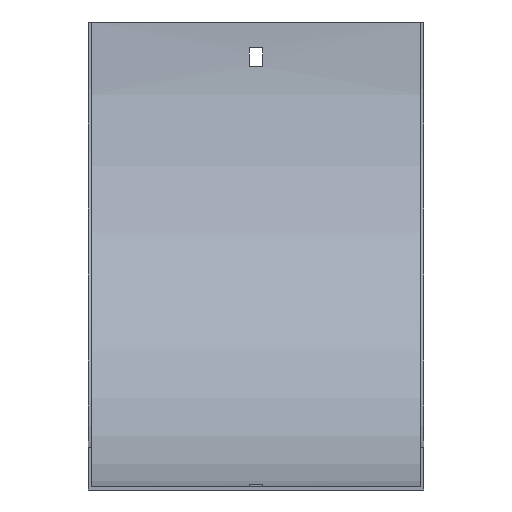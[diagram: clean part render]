
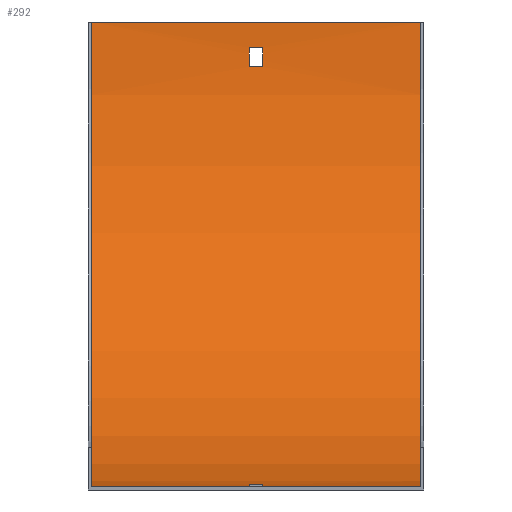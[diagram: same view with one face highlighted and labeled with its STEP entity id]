
A CAD part, front view. The second image highlights one B-rep face of the part: STEP entity #292.
In plain terms, the highlighted cylindrical face has radius 217.5 mm (diameter 435 mm), a partial arc.
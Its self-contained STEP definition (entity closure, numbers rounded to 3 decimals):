
#3 = DIRECTION ( 'NONE',  ( 1., 0., 0. ) ) ;
#5 = CARTESIAN_POINT ( 'NONE',  ( 3.25, -207., -217.169 ) ) ;
#25 = EDGE_LOOP ( 'NONE', ( #103, #221, #29, #463 ) ) ;
#29 = ORIENTED_EDGE ( 'NONE', *, *, #158, .T. ) ;
#31 = AXIS2_PLACEMENT_3D ( 'NONE', #259, #350, #256 ) ;
#35 = EDGE_CURVE ( 'NONE', #489, #163, #118, .T. ) ;
#41 = AXIS2_PLACEMENT_3D ( 'NONE', #492, #151, #395 ) ;
#48 = CARTESIAN_POINT ( 'NONE',  ( 77., -1.5, 0. ) ) ;
#59 = LINE ( 'NONE', #209, #462 ) ;
#75 = DIRECTION ( 'NONE',  ( 0., 0., 1. ) ) ;
#79 = CARTESIAN_POINT ( 'NONE',  ( -3.25, -207., -217.169 ) ) ;
#82 = CYLINDRICAL_SURFACE ( 'NONE', #579, 217.5 ) ;
#91 = DIRECTION ( 'NONE',  ( -1., 0., 0. ) ) ;
#98 = CARTESIAN_POINT ( 'NONE',  ( -77., -1.5, 0. ) ) ;
#99 = EDGE_CURVE ( 'NONE', #231, #489, #111, .T. ) ;
#103 = ORIENTED_EDGE ( 'NONE', *, *, #551, .T. ) ;
#111 = LINE ( 'NONE', #170, #242 ) ;
#118 = CIRCLE ( 'NONE', #410, 217.5 ) ;
#122 = CARTESIAN_POINT ( 'NONE',  ( 78.5, -207., -217.169 ) ) ;
#137 = ORIENTED_EDGE ( 'NONE', *, *, #383, .T. ) ;
#141 = EDGE_CURVE ( 'NONE', #150, #416, #290, .T. ) ;
#148 = ORIENTED_EDGE ( 'NONE', *, *, #430, .F. ) ;
#150 = VERTEX_POINT ( 'NONE', #79 ) ;
#151 = DIRECTION ( 'NONE',  ( 1., 0., 0. ) ) ;
#153 = CARTESIAN_POINT ( 'NONE',  ( 77., -219., -217.5 ) ) ;
#154 = CARTESIAN_POINT ( 'NONE',  ( 3.25, -219., 0. ) ) ;
#158 = EDGE_CURVE ( 'NONE', #416, #260, #506, .T. ) ;
#163 = VERTEX_POINT ( 'NONE', #509 ) ;
#166 = DIRECTION ( 'NONE',  ( 1., 0., 0. ) ) ;
#170 = CARTESIAN_POINT ( 'NONE',  ( 78.5, -2.516, -21. ) ) ;
#173 = EDGE_LOOP ( 'NONE', ( #539, #394, #595, #339 ) ) ;
#178 = CARTESIAN_POINT ( 'NONE',  ( 77., -219., -217.5 ) ) ;
#179 = DIRECTION ( 'NONE',  ( 0., 0., 1. ) ) ;
#180 = CARTESIAN_POINT ( 'NONE',  ( -3.25, -219., 0. ) ) ;
#193 = CARTESIAN_POINT ( 'NONE',  ( 77., -219., 0. ) ) ;
#209 = CARTESIAN_POINT ( 'NONE',  ( 78.5, -1.831, -12. ) ) ;
#211 = VECTOR ( 'NONE', #91, 1000. ) ;
#221 = ORIENTED_EDGE ( 'NONE', *, *, #141, .T. ) ;
#223 = DIRECTION ( 'NONE',  ( -1., 0., 0. ) ) ;
#225 = AXIS2_PLACEMENT_3D ( 'NONE', #180, #504, #420 ) ;
#226 = CARTESIAN_POINT ( 'NONE',  ( 78.5, -198., -216.484 ) ) ;
#227 = EDGE_CURVE ( 'NONE', #448, #388, #307, .T. ) ;
#229 = EDGE_CURVE ( 'NONE', #281, #231, #333, .T. ) ;
#230 = CARTESIAN_POINT ( 'NONE',  ( 77., -1.5, 0. ) ) ;
#231 = VERTEX_POINT ( 'NONE', #601 ) ;
#238 = ORIENTED_EDGE ( 'NONE', *, *, #600, .T. ) ;
#242 = VECTOR ( 'NONE', #494, 1000. ) ;
#256 = DIRECTION ( 'NONE',  ( 0., 0., -1. ) ) ;
#259 = CARTESIAN_POINT ( 'NONE',  ( -3.25, -219., 0. ) ) ;
#260 = VERTEX_POINT ( 'NONE', #417 ) ;
#268 = EDGE_CURVE ( 'NONE', #260, #305, #278, .T. ) ;
#278 = CIRCLE ( 'NONE', #323, 217.5 ) ;
#281 = VERTEX_POINT ( 'NONE', #319 ) ;
#290 = CIRCLE ( 'NONE', #31, 217.5 ) ;
#292 = ADVANCED_FACE ( 'NONE', ( #549, #508, #467 ), #82, .F. ) ;
#300 = VECTOR ( 'NONE', #314, 1000. ) ;
#305 = VERTEX_POINT ( 'NONE', #5 ) ;
#307 = LINE ( 'NONE', #178, #300 ) ;
#314 = DIRECTION ( 'NONE',  ( -1., 0., 0. ) ) ;
#317 = CARTESIAN_POINT ( 'NONE',  ( 3.25, -219., 0. ) ) ;
#319 = CARTESIAN_POINT ( 'NONE',  ( -3.25, -1.831, -12. ) ) ;
#323 = AXIS2_PLACEMENT_3D ( 'NONE', #317, #223, #75 ) ;
#331 = CIRCLE ( 'NONE', #41, 217.5 ) ;
#332 = CARTESIAN_POINT ( 'NONE',  ( -77., -219., -217.5 ) ) ;
#333 = CIRCLE ( 'NONE', #225, 217.5 ) ;
#339 = ORIENTED_EDGE ( 'NONE', *, *, #99, .F. ) ;
#343 = CIRCLE ( 'NONE', #476, 217.5 ) ;
#346 = CARTESIAN_POINT ( 'NONE',  ( -3.25, -198., -216.484 ) ) ;
#350 = DIRECTION ( 'NONE',  ( 1., 0., 0. ) ) ;
#361 = VERTEX_POINT ( 'NONE', #98 ) ;
#366 = DIRECTION ( 'NONE',  ( 1., 0., 0. ) ) ;
#383 = EDGE_CURVE ( 'NONE', #448, #589, #343, .T. ) ;
#386 = DIRECTION ( 'NONE',  ( 0., 0., 1. ) ) ;
#388 = VERTEX_POINT ( 'NONE', #332 ) ;
#394 = ORIENTED_EDGE ( 'NONE', *, *, #415, .F. ) ;
#395 = DIRECTION ( 'NONE',  ( 0., 0., 1. ) ) ;
#410 = AXIS2_PLACEMENT_3D ( 'NONE', #154, #166, #577 ) ;
#415 = EDGE_CURVE ( 'NONE', #163, #281, #59, .T. ) ;
#416 = VERTEX_POINT ( 'NONE', #346 ) ;
#417 = CARTESIAN_POINT ( 'NONE',  ( 3.25, -198., -216.484 ) ) ;
#420 = DIRECTION ( 'NONE',  ( 0., 0., 1. ) ) ;
#430 = EDGE_CURVE ( 'NONE', #388, #361, #331, .T. ) ;
#439 = ORIENTED_EDGE ( 'NONE', *, *, #227, .F. ) ;
#446 = CARTESIAN_POINT ( 'NONE',  ( 3.25, -2.516, -21. ) ) ;
#448 = VERTEX_POINT ( 'NONE', #153 ) ;
#452 = DIRECTION ( 'NONE',  ( -1., 0., 0. ) ) ;
#453 = EDGE_LOOP ( 'NONE', ( #148, #439, #137, #238 ) ) ;
#462 = VECTOR ( 'NONE', #452, 1000. ) ;
#463 = ORIENTED_EDGE ( 'NONE', *, *, #268, .T. ) ;
#466 = CARTESIAN_POINT ( 'NONE',  ( 78.5, -219., 0. ) ) ;
#467 = FACE_BOUND ( 'NONE', #25, .T. ) ;
#468 = VECTOR ( 'NONE', #366, 1000. ) ;
#471 = LINE ( 'NONE', #48, #211 ) ;
#476 = AXIS2_PLACEMENT_3D ( 'NONE', #193, #3, #386 ) ;
#489 = VERTEX_POINT ( 'NONE', #446 ) ;
#492 = CARTESIAN_POINT ( 'NONE',  ( -77., -219., 0. ) ) ;
#494 = DIRECTION ( 'NONE',  ( 1., 0., 0. ) ) ;
#503 = DIRECTION ( 'NONE',  ( -1., 0., 0. ) ) ;
#504 = DIRECTION ( 'NONE',  ( -1., 0., 0. ) ) ;
#506 = LINE ( 'NONE', #226, #468 ) ;
#508 = FACE_OUTER_BOUND ( 'NONE', #453, .T. ) ;
#509 = CARTESIAN_POINT ( 'NONE',  ( 3.25, -1.831, -12. ) ) ;
#539 = ORIENTED_EDGE ( 'NONE', *, *, #229, .F. ) ;
#544 = LINE ( 'NONE', #122, #598 ) ;
#549 = FACE_BOUND ( 'NONE', #173, .T. ) ;
#551 = EDGE_CURVE ( 'NONE', #305, #150, #544, .T. ) ;
#577 = DIRECTION ( 'NONE',  ( 0., 0., -1. ) ) ;
#579 = AXIS2_PLACEMENT_3D ( 'NONE', #466, #606, #179 ) ;
#589 = VERTEX_POINT ( 'NONE', #230 ) ;
#595 = ORIENTED_EDGE ( 'NONE', *, *, #35, .F. ) ;
#598 = VECTOR ( 'NONE', #503, 1000. ) ;
#600 = EDGE_CURVE ( 'NONE', #589, #361, #471, .T. ) ;
#601 = CARTESIAN_POINT ( 'NONE',  ( -3.25, -2.516, -21. ) ) ;
#606 = DIRECTION ( 'NONE',  ( -1., 0., 0. ) ) ;
